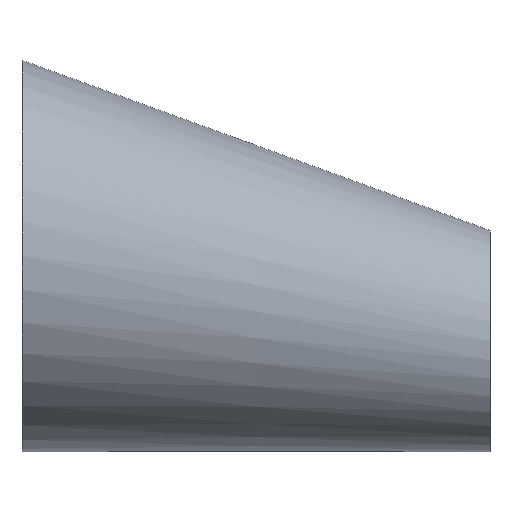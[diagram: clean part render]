
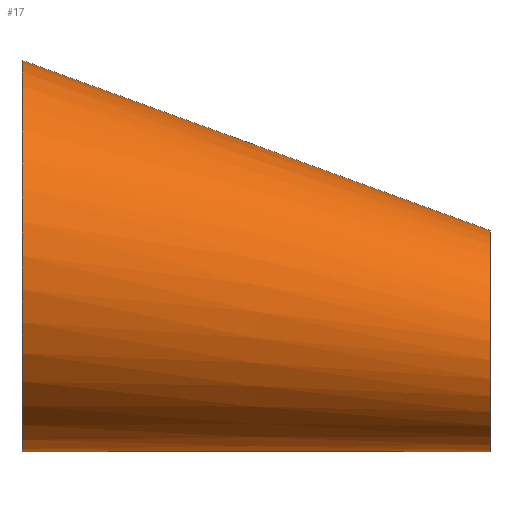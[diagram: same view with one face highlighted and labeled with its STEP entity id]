
A CAD part, top view. The second image highlights one B-rep face of the part: STEP entity #17.
In plain terms, the highlighted free-form (B-spline) face has degree [14, 1] with [15, 2] control points.
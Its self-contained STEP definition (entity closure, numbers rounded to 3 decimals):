
#17 = ADVANCED_FACE('',(#18),#31,.T.);
#18 = FACE_BOUND('',#19,.T.);
#19 = EDGE_LOOP('',(#20,#80,#102,#129));
#20 = ORIENTED_EDGE('',*,*,#21,.T.);
#21 = EDGE_CURVE('',#22,#22,#24,.T.);
#22 = VERTEX_POINT('',#23);
#23 = CARTESIAN_POINT('',(0.,11.5,0.));
#24 = SURFACE_CURVE('',#25,(#30,#68),.PCURVE_S1.);
#25 = CIRCLE('',#26,11.5);
#26 = AXIS2_PLACEMENT_3D('',#27,#28,#29);
#27 = CARTESIAN_POINT('',(0.,0.,0.));
#28 = DIRECTION('',(1.,0.,0.));
#29 = DIRECTION('',(0.,1.,0.));
#30 = PCURVE('',#31,#62);
#31 = B_SPLINE_SURFACE_WITH_KNOTS('',14,1,(
    (#32,#33)
    ,(#34,#35)
    ,(#36,#37)
    ,(#38,#39)
    ,(#40,#41)
    ,(#42,#43)
    ,(#44,#45)
    ,(#46,#47)
    ,(#48,#49)
    ,(#50,#51)
    ,(#52,#53)
    ,(#54,#55)
    ,(#56,#57)
    ,(#58,#59)
    ,(#60,#61
    )),.UNSPECIFIED.,.T.,.F.,.F.,(15,15),(2,2),(0.,6.283),(0.,1.
    ),.PIECEWISE_BEZIER_KNOTS.);
#32 = CARTESIAN_POINT('',(0.,11.5,0.));
#33 = CARTESIAN_POINT('',(27.5,1.5,0.));
#34 = CARTESIAN_POINT('',(0.,11.5,5.161));
#35 = CARTESIAN_POINT('',(27.5,1.5,2.917)
  );
#36 = CARTESIAN_POINT('',(0.,9.005,10.322));
#37 = CARTESIAN_POINT('',(27.5,0.09,
    5.834));
#38 = CARTESIAN_POINT('',(0.,4.016,14.177));
#39 = CARTESIAN_POINT('',(27.5,-2.73,8.013
    ));
#40 = CARTESIAN_POINT('',(0.,-2.721,15.42));
#41 = CARTESIAN_POINT('',(27.5,-6.538,8.716
    ));
#42 = CARTESIAN_POINT('',(0.,-9.715,13.213));
#43 = CARTESIAN_POINT('',(27.5,-10.491,7.468
    ));
#44 = CARTESIAN_POINT('',(0.,-15.054,7.658));
#45 = CARTESIAN_POINT('',(27.5,-13.509,4.328)
  );
#46 = CARTESIAN_POINT('',(0.,-17.064,0.));
#47 = CARTESIAN_POINT('',(27.5,-14.645,
    0.));
#48 = CARTESIAN_POINT('',(0.,-15.054,-7.658));
#49 = CARTESIAN_POINT('',(27.5,-13.509,
    -4.328));
#50 = CARTESIAN_POINT('',(0.,-9.715,-13.213));
#51 = CARTESIAN_POINT('',(27.5,-10.491,-7.468
    ));
#52 = CARTESIAN_POINT('',(0.,-2.721,-15.42));
#53 = CARTESIAN_POINT('',(27.5,-6.538,
    -8.716));
#54 = CARTESIAN_POINT('',(0.,4.016,-14.177));
#55 = CARTESIAN_POINT('',(27.5,-2.73,
    -8.013));
#56 = CARTESIAN_POINT('',(0.,9.005,-10.322));
#57 = CARTESIAN_POINT('',(27.5,0.09,
    -5.834));
#58 = CARTESIAN_POINT('',(0.,11.5,-5.161));
#59 = CARTESIAN_POINT('',(27.5,1.5,-2.917
    ));
#60 = CARTESIAN_POINT('',(0.,11.5,0.));
#61 = CARTESIAN_POINT('',(27.5,1.5,0.));
#62 = DEFINITIONAL_REPRESENTATION('',(#63),#67);
#63 = LINE('',#64,#65);
#64 = CARTESIAN_POINT('',(0.,0.));
#65 = VECTOR('',#66,1.);
#66 = DIRECTION('',(1.,0.));
#67 = ( GEOMETRIC_REPRESENTATION_CONTEXT(2) 
PARAMETRIC_REPRESENTATION_CONTEXT() REPRESENTATION_CONTEXT('2D SPACE',''
  ) );
#68 = PCURVE('',#69,#74);
#69 = PLANE('',#70);
#70 = AXIS2_PLACEMENT_3D('',#71,#72,#73);
#71 = CARTESIAN_POINT('',(0.,0.,0.));
#72 = DIRECTION('',(1.,0.,0.));
#73 = DIRECTION('',(0.,1.,0.));
#74 = DEFINITIONAL_REPRESENTATION('',(#75),#79);
#75 = CIRCLE('',#76,11.5);
#76 = AXIS2_PLACEMENT_2D('',#77,#78);
#77 = CARTESIAN_POINT('',(0.,0.));
#78 = DIRECTION('',(1.,0.));
#79 = ( GEOMETRIC_REPRESENTATION_CONTEXT(2) 
PARAMETRIC_REPRESENTATION_CONTEXT() REPRESENTATION_CONTEXT('2D SPACE',''
  ) );
#80 = ORIENTED_EDGE('',*,*,#81,.T.);
#81 = EDGE_CURVE('',#22,#82,#84,.T.);
#82 = VERTEX_POINT('',#83);
#83 = CARTESIAN_POINT('',(27.5,1.5,0.));
#84 = SEAM_CURVE('',#85,(#88,#95),.PCURVE_S1.);
#85 = B_SPLINE_CURVE_WITH_KNOTS('',1,(#86,#87),.UNSPECIFIED.,.F.,.F.,(2,
    2),(0.,1.),.PIECEWISE_BEZIER_KNOTS.);
#86 = CARTESIAN_POINT('',(0.,11.5,0.));
#87 = CARTESIAN_POINT('',(27.5,1.5,0.));
#88 = PCURVE('',#31,#89);
#89 = DEFINITIONAL_REPRESENTATION('',(#90),#94);
#90 = LINE('',#91,#92);
#91 = CARTESIAN_POINT('',(6.283,0.));
#92 = VECTOR('',#93,1.);
#93 = DIRECTION('',(0.,1.));
#94 = ( GEOMETRIC_REPRESENTATION_CONTEXT(2) 
PARAMETRIC_REPRESENTATION_CONTEXT() REPRESENTATION_CONTEXT('2D SPACE',''
  ) );
#95 = PCURVE('',#31,#96);
#96 = DEFINITIONAL_REPRESENTATION('',(#97),#101);
#97 = LINE('',#98,#99);
#98 = CARTESIAN_POINT('',(0.,0.));
#99 = VECTOR('',#100,1.);
#100 = DIRECTION('',(0.,1.));
#101 = ( GEOMETRIC_REPRESENTATION_CONTEXT(2) 
PARAMETRIC_REPRESENTATION_CONTEXT() REPRESENTATION_CONTEXT('2D SPACE',''
  ) );
#102 = ORIENTED_EDGE('',*,*,#103,.F.);
#103 = EDGE_CURVE('',#82,#82,#104,.T.);
#104 = SURFACE_CURVE('',#105,(#110,#117),.PCURVE_S1.);
#105 = CIRCLE('',#106,6.5);
#106 = AXIS2_PLACEMENT_3D('',#107,#108,#109);
#107 = CARTESIAN_POINT('',(27.5,-5.,0.));
#108 = DIRECTION('',(1.,0.,0.));
#109 = DIRECTION('',(0.,1.,0.));
#110 = PCURVE('',#31,#111);
#111 = DEFINITIONAL_REPRESENTATION('',(#112),#116);
#112 = LINE('',#113,#114);
#113 = CARTESIAN_POINT('',(0.,1.));
#114 = VECTOR('',#115,1.);
#115 = DIRECTION('',(1.,0.));
#116 = ( GEOMETRIC_REPRESENTATION_CONTEXT(2) 
PARAMETRIC_REPRESENTATION_CONTEXT() REPRESENTATION_CONTEXT('2D SPACE',''
  ) );
#117 = PCURVE('',#118,#123);
#118 = PLANE('',#119);
#119 = AXIS2_PLACEMENT_3D('',#120,#121,#122);
#120 = CARTESIAN_POINT('',(27.5,-5.,0.));
#121 = DIRECTION('',(1.,0.,0.));
#122 = DIRECTION('',(0.,1.,0.));
#123 = DEFINITIONAL_REPRESENTATION('',(#124),#128);
#124 = CIRCLE('',#125,6.5);
#125 = AXIS2_PLACEMENT_2D('',#126,#127);
#126 = CARTESIAN_POINT('',(0.,0.));
#127 = DIRECTION('',(1.,0.));
#128 = ( GEOMETRIC_REPRESENTATION_CONTEXT(2) 
PARAMETRIC_REPRESENTATION_CONTEXT() REPRESENTATION_CONTEXT('2D SPACE',''
  ) );
#129 = ORIENTED_EDGE('',*,*,#81,.F.);
